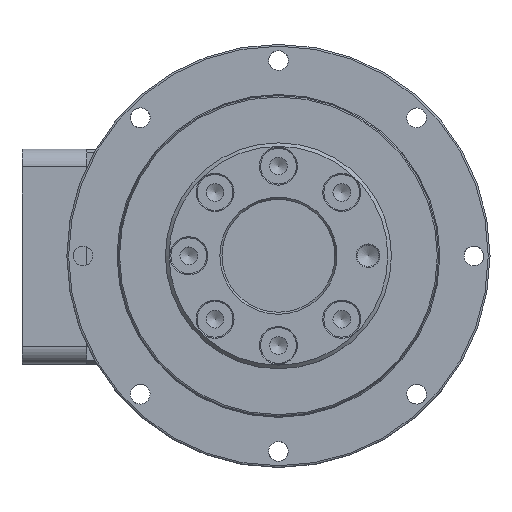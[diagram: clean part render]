
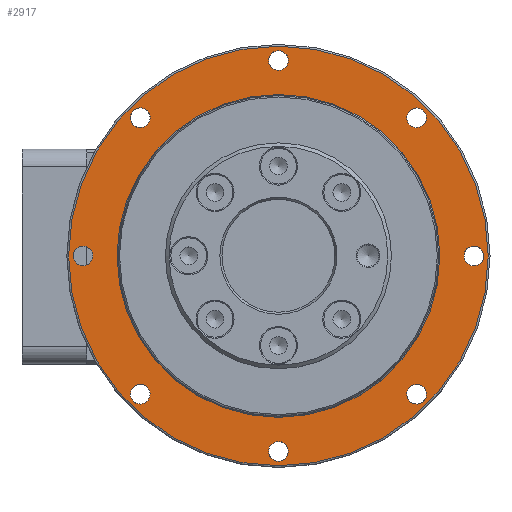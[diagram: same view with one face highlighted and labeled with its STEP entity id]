
A CAD part, top view. The second image highlights one B-rep face of the part: STEP entity #2917.
In plain terms, the highlighted planar face has unit normal (0, 0, 1).
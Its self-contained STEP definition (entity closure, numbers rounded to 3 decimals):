
#280=CARTESIAN_POINT('',(40.482,36.593,7.));
#281=VERTEX_POINT('',#280);
#282=CARTESIAN_POINT('',(38.537,38.537,7.));
#283=DIRECTION('',(0.0,0.0,-1.));
#284=DIRECTION('',(-0.707,0.707,0.0));
#285=AXIS2_PLACEMENT_3D('',#282,#283,#284);
#286=CIRCLE('',#285,2.75);
#287=EDGE_CURVE('',#281,#281,#286,.T.);
#308=CARTESIAN_POINT('',(-36.593,40.482,7.));
#309=VERTEX_POINT('',#308);
#310=CARTESIAN_POINT('',(-38.537,38.537,7.));
#311=DIRECTION('',(0.0,0.0,-1.));
#312=DIRECTION('',(-0.707,-0.707,0.0));
#313=AXIS2_PLACEMENT_3D('',#310,#311,#312);
#314=CIRCLE('',#313,2.75);
#315=EDGE_CURVE('',#309,#309,#314,.T.);
#336=CARTESIAN_POINT('',(36.593,-40.482,7.));
#337=VERTEX_POINT('',#336);
#338=CARTESIAN_POINT('',(38.537,-38.537,7.));
#339=DIRECTION('',(0.0,0.0,-1.));
#340=DIRECTION('',(0.707,0.707,0.0));
#341=AXIS2_PLACEMENT_3D('',#338,#339,#340);
#342=CIRCLE('',#341,2.75);
#343=EDGE_CURVE('',#337,#337,#342,.T.);
#364=CARTESIAN_POINT('',(54.5,-2.75,7.));
#365=VERTEX_POINT('',#364);
#366=CARTESIAN_POINT('',(54.5,0.,7.));
#367=DIRECTION('',(0.0,0.0,-1.0));
#368=DIRECTION('',(0.0,1.0,0.0));
#369=AXIS2_PLACEMENT_3D('',#366,#367,#368);
#370=CIRCLE('',#369,2.75);
#371=EDGE_CURVE('',#365,#365,#370,.T.);
#442=CARTESIAN_POINT('',(2.75,54.5,7.));
#443=VERTEX_POINT('',#442);
#444=CARTESIAN_POINT('',(0.0,54.5,7.));
#445=DIRECTION('',(0.0,0.0,-1.0));
#446=DIRECTION('',(-1.0,0.0,0.0));
#447=AXIS2_PLACEMENT_3D('',#444,#445,#446);
#448=CIRCLE('',#447,2.75);
#449=EDGE_CURVE('',#443,#443,#448,.T.);
#520=CARTESIAN_POINT('',(-2.75,-54.5,7.));
#521=VERTEX_POINT('',#520);
#522=CARTESIAN_POINT('',(0.,-54.5,7.));
#523=DIRECTION('',(0.0,0.0,-1.0));
#524=DIRECTION('',(1.0,0.0,0.0));
#525=AXIS2_PLACEMENT_3D('',#522,#523,#524);
#526=CIRCLE('',#525,2.75);
#527=EDGE_CURVE('',#521,#521,#526,.T.);
#666=CARTESIAN_POINT('',(-54.5,2.75,7.));
#667=VERTEX_POINT('',#666);
#668=CARTESIAN_POINT('',(-54.5,0.0,7.));
#669=DIRECTION('',(0.0,0.0,-1.0));
#670=DIRECTION('',(0.0,-1.0,0.0));
#671=AXIS2_PLACEMENT_3D('',#668,#669,#670);
#672=CIRCLE('',#671,2.75);
#673=EDGE_CURVE('',#667,#667,#672,.T.);
#2851=CARTESIAN_POINT('',(58.5,0.,7.));
#2852=VERTEX_POINT('',#2851);
#2853=CARTESIAN_POINT('',(0.0,0.0,7.));
#2854=DIRECTION('',(0.0,0.0,-1.0));
#2855=DIRECTION('',(-1.0,0.0,0.0));
#2856=AXIS2_PLACEMENT_3D('',#2853,#2854,#2855);
#2857=CIRCLE('',#2856,58.5);
#2858=EDGE_CURVE('',#2852,#2852,#2857,.T.);
#2866=CARTESIAN_POINT('',(0.0,0.0,7.));
#2867=DIRECTION('',(0.0,0.0,-1.0));
#2868=DIRECTION('',(-1.0,0.0,0.0));
#2869=AXIS2_PLACEMENT_3D('',#2866,#2867,#2868);
#2870=PLANE('',#2869);
#2871=ORIENTED_EDGE('',*,*,#2858,.F.);
#2872=EDGE_LOOP('',(#2871));
#2873=FACE_OUTER_BOUND('',#2872,.T.);
#2874=CARTESIAN_POINT('',(45.0,0.,7.));
#2875=VERTEX_POINT('',#2874);
#2876=CARTESIAN_POINT('',(0.0,0.0,7.));
#2877=DIRECTION('',(0.0,0.0,-1.0));
#2878=DIRECTION('',(-1.0,0.0,0.0));
#2879=AXIS2_PLACEMENT_3D('',#2876,#2877,#2878);
#2880=CIRCLE('',#2879,45.0);
#2881=EDGE_CURVE('',#2875,#2875,#2880,.T.);
#2882=ORIENTED_EDGE('',*,*,#2881,.T.);
#2883=EDGE_LOOP('',(#2882));
#2884=FACE_BOUND('',#2883,.T.);
#2885=ORIENTED_EDGE('',*,*,#449,.T.);
#2886=EDGE_LOOP('',(#2885));
#2887=FACE_BOUND('',#2886,.T.);
#2888=ORIENTED_EDGE('',*,*,#315,.T.);
#2889=EDGE_LOOP('',(#2888));
#2890=FACE_BOUND('',#2889,.T.);
#2891=ORIENTED_EDGE('',*,*,#673,.T.);
#2892=EDGE_LOOP('',(#2891));
#2893=FACE_BOUND('',#2892,.T.);
#2894=CARTESIAN_POINT('',(-40.482,-36.593,7.));
#2895=VERTEX_POINT('',#2894);
#2896=CARTESIAN_POINT('',(-38.537,-38.537,7.));
#2897=DIRECTION('',(0.0,0.0,-1.));
#2898=DIRECTION('',(0.707,-0.707,0.0));
#2899=AXIS2_PLACEMENT_3D('',#2896,#2897,#2898);
#2900=CIRCLE('',#2899,2.75);
#2901=EDGE_CURVE('',#2895,#2895,#2900,.T.);
#2902=ORIENTED_EDGE('',*,*,#2901,.T.);
#2903=EDGE_LOOP('',(#2902));
#2904=FACE_BOUND('',#2903,.T.);
#2905=ORIENTED_EDGE('',*,*,#527,.T.);
#2906=EDGE_LOOP('',(#2905));
#2907=FACE_BOUND('',#2906,.T.);
#2908=ORIENTED_EDGE('',*,*,#343,.T.);
#2909=EDGE_LOOP('',(#2908));
#2910=FACE_BOUND('',#2909,.T.);
#2911=ORIENTED_EDGE('',*,*,#371,.T.);
#2912=EDGE_LOOP('',(#2911));
#2913=FACE_BOUND('',#2912,.T.);
#2914=ORIENTED_EDGE('',*,*,#287,.T.);
#2915=EDGE_LOOP('',(#2914));
#2916=FACE_BOUND('',#2915,.T.);
#2917=ADVANCED_FACE('',(#2873,#2884,#2887,#2890,#2893,#2904,#2907,#2910,#2913,#2916),#2870,.F.);
